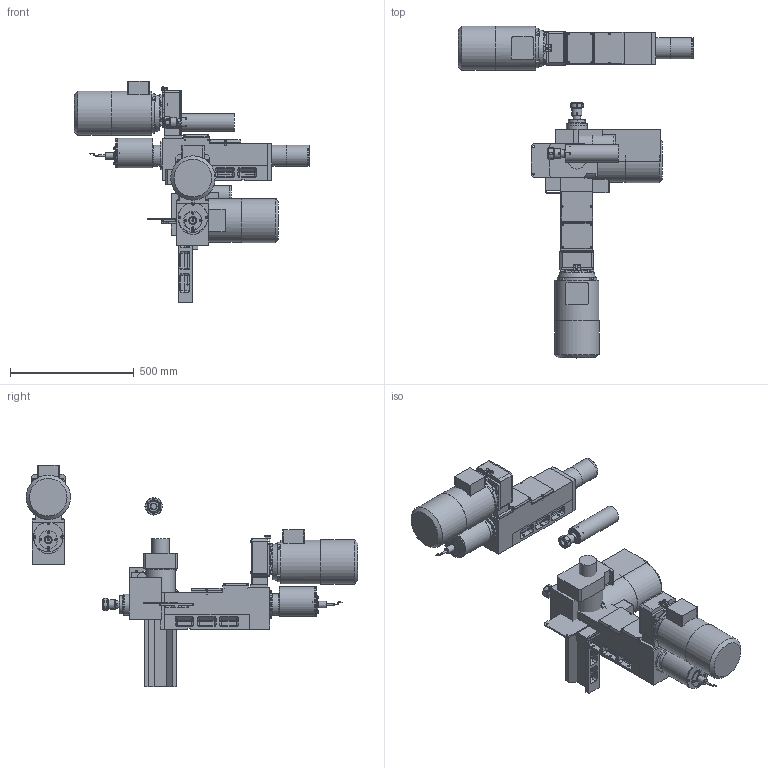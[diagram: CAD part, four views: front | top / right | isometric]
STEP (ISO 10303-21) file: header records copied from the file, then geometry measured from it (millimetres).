
FILE_DESCRIPTION( ( 'STEP AP203' ), '1' );
FILE_NAME( 'C:/Documents and Settings/Saverio/Desktop/disegni ironcad/unità serie 2/MC216 (ex MC220)/MC 216_A03_P.stp', '2014-03-25T10:10:53', ( ' ' ), ( ' ' ), 'XStep 1.0', ' ', ' ' );
FILE_SCHEMA( ( 'CONFIG_CONTROL_DESIGN' ) );
Length unit declared in the file: metre
Products named in the file (50): Assem1; Assem2; Assem3; Assem4; 1; 2; 3; 4; 5; 6; 7; 8; 9; 10; 11; 12; 13; 14; 15; 16; 17; 18; 19; 20; 21; 22; 23; 24; 25; 26; 27; 28; 29; 30; 31; 32; 33; 34; 35; 36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
Bounding box: 950 x 1338.73 x 894.21 mm (x, y, z)
Volume: 58605954 mm3; surface area: 4365223.1 mm2
Topology: 140 solids, 140 shells, 3374 faces, 7682 edges, 4685 vertices
Faces by surface type: plane 1782, cylinder 864, cone 493, bspline 126, sphere 60, torus 49
Full cylindrical faces by diameter (mm): 5 x66, 5.25 x12, 5.5 x33, 6.5 x18, 6.637 x15, 6.647 x12, 6.75 x22, 7 x3, 8 x3, 8.385 x3, 8.5 x48, 8.75 x18, 18 x9, 20 x3, 23 x3, 24 x3, 26 x3, 27 x3, 30 x6, 31.2 x3, 32 x3, 38.5 x3, 40 x3, 50 x3, 52 x3, 53 x3, 54 x6, 70 x10, 74 x6, 76 x3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
Entity records: 34038 total; most frequent: CARTESIAN_POINT 8596, DIRECTION 4841, ORIENTED_EDGE 4284, EDGE_CURVE 2142, AXIS2_PLACEMENT_3D 1820, EDGE_LOOP 1537, VERTEX_POINT 1480, FACE_OUTER_BOUND 1250
